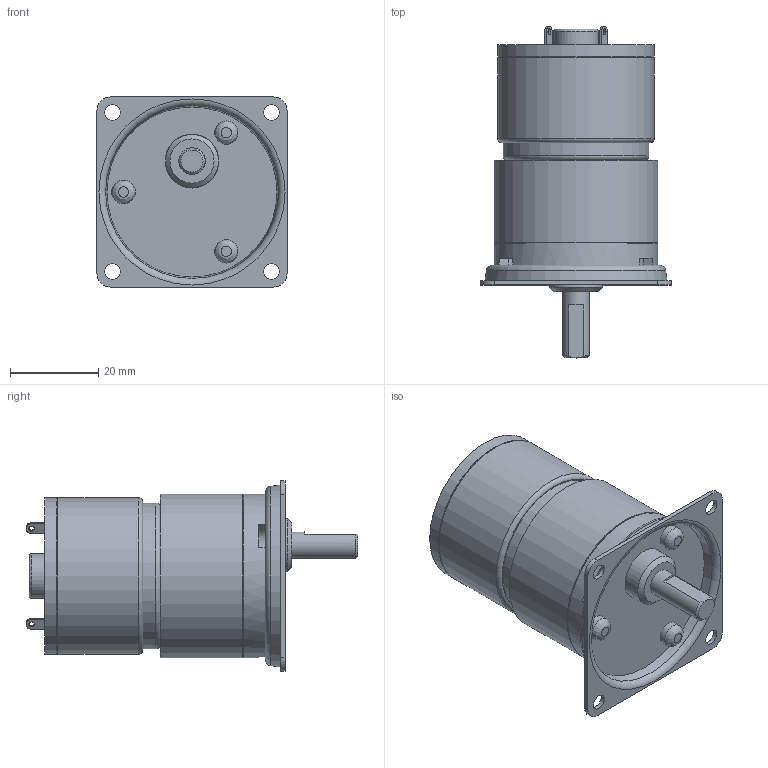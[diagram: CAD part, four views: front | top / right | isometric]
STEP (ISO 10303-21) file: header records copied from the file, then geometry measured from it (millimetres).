
FILE_DESCRIPTION((''),'2;1');
FILE_NAME('C:\Documents and Settings\SSEGAWA\デスクトップ\TP-3526A-PKS-3.STP','2013-07-09T14:41:15',('SSEGAWA'),(''),'Autodesk Inventor 2010','Autodesk Inventor 2010','');
FILE_SCHEMA(('CONFIG_CONTROL_DESIGN'));
Length unit declared in the file: millimetre
Products named in the file (5): tp_3526abcj_pks_3; pks_3; ks_3; □43; tp_3526a,b,c,j
Assembly tree (4 placements, depth 3):
  tp_3526abcj_pks_3
    pks_3
      ks_3
      □43
    tp_3526a,b,c,j
Bounding box: 43 x 75.1 x 43 mm (x, y, z)
Volume: 53923.4 mm3; surface area: 15412.7 mm2
Topology: 4 solids, 4 shells, 112 faces, 256 edges, 170 vertices
Faces by surface type: plane 47, cylinder 28, bspline 28, torus 5, cone 4
Full cylindrical faces by diameter (mm): 2 x1, 4 x1, 5.3 x3, 6 x1, 10 x2, 12 x1, 12.2 x1, 33 x1, 35 x1, 35.4 x2, 36.6 x1, 37 x2
Entity records: 3303 total; most frequent: CARTESIAN_POINT 1024, DIRECTION 465, ORIENTED_EDGE 348, AXIS2_PLACEMENT_3D 200, EDGE_LOOP 197, EDGE_CURVE 174, VERTEX_POINT 141, FACE_OUTER_BOUND 112
